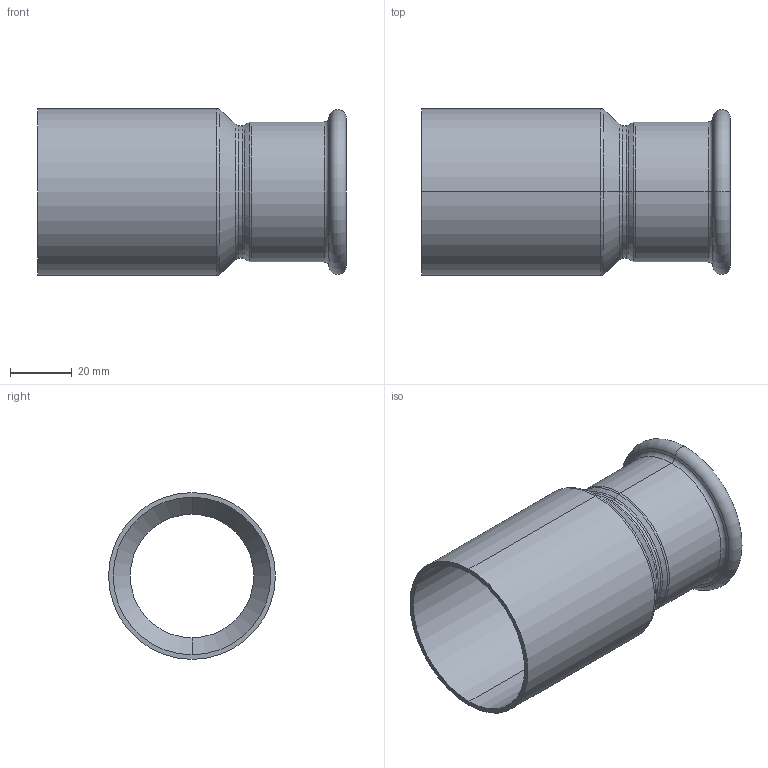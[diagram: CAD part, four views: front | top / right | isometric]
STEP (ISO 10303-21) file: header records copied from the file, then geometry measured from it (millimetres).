
FILE_DESCRIPTION (( 'STEP AP214' ), '1' );
FILE_NAME ('R54420B.STEP', '2025-08-18T00:11:03', ( '' ), ( '' ), 'SwSTEP 2.0', 'SolidWorks 2020', '' );
FILE_SCHEMA (( 'AUTOMOTIVE_DESIGN' ));
Length unit declared in the file: millimetre
Products named in the file (1): R54420B
Bounding box: 100 x 54 x 54 mm (x, y, z)
Volume: 25329.2 mm3; surface area: 34436.6 mm2
Topology: 2 solids, 2 shells, 47 faces, 94 edges, 50 vertices
Faces by surface type: torus 18, cylinder 14, cone 12, plane 3
Entity records: 1307 total; most frequent: DIRECTION 258, CARTESIAN_POINT 192, ORIENTED_EDGE 188, AXIS2_PLACEMENT_3D 116, EDGE_CURVE 94, CIRCLE 68, EDGE_LOOP 50, VERTEX_POINT 50
